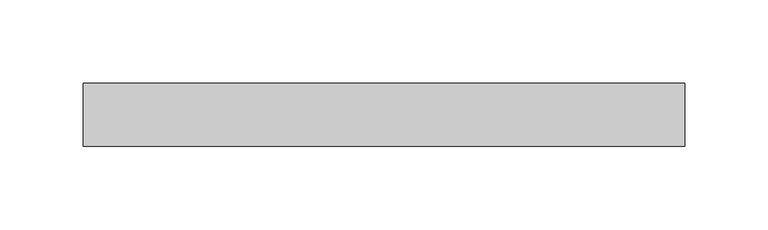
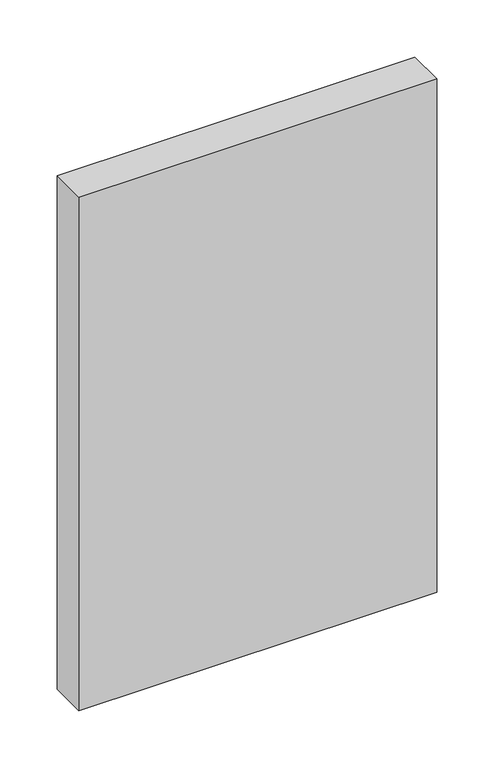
"""IFC4 building model written with IfcOpenShell, lengths in millimetres: proxy geometry, FOUNDATION^PEDESTAL_PLINTH-14.25x21.63."""

from ifc_helpers import new_model, si_unit, frame, origin, place, context, project, spatial, polyline, outline, extrude, source, transform, mapped, element, save


def generic_models_c0fca62b(model_context):
    return source(origin(), model_context, "Body", "SweptSolid", [
        extrude(outline(polyline([(361.95, 0.0), (0.0, 0.0), (0.0, 38.1), (361.95, 38.1), (361.95, 0.0)])), frame((0.0, 0.0, -549.275), z_axis=(0.0, 0.0, 1.0), x_axis=(1.0, 0.0, 0.0)), (0.0, 0.0, 1.0), 549.275),
    ])


if __name__ == "__main__":
    model = new_model("IFC4")
    model_context = context("Model", 3, world=origin())
    ifc_project = project(units=[si_unit("LENGTHUNIT", "METRE", prefix="MILLI")], contexts=[model_context])
    site = spatial("IfcSite", under=ifc_project)
    building = spatial("IfcBuilding", under=site)
    placement = place(None, origin())
    generic_models_shape = generic_models_c0fca62b(model_context)
    element("IfcBuildingElementProxy", 1, Name="FOUNDATION^PEDESTAL_PLINTH-14.25x21.63", ObjectType="FOUNDATION^PEDESTAL_PLINTH-14.25x21.63", at=placement, inside=building, context=model_context, shape_type="MappedRepresentation", body=[
        mapped(generic_models_shape, transform((0.0, 0.0, 0.0), x_axis=(1.0, 0.0, 0.0), y_axis=(0.0, 1.0, 0.0), z_axis=(0.0, 0.0, 1.0))),
    ])
    save(model, "model.ifc")
